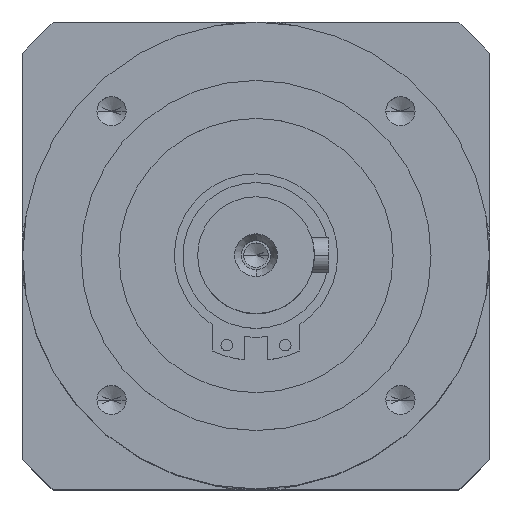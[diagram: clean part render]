
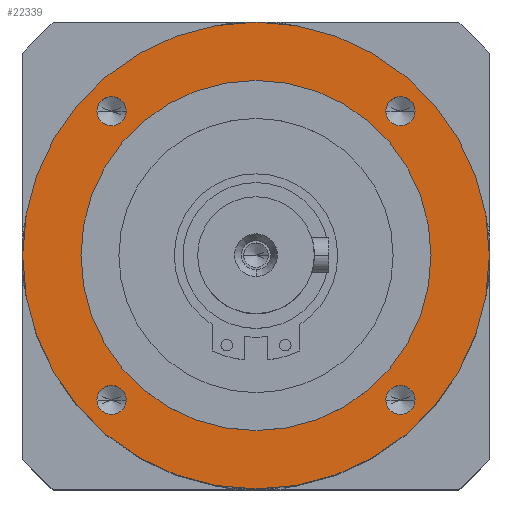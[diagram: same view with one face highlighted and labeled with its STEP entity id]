
A CAD part, top view. The second image highlights one B-rep face of the part: STEP entity #22339.
In plain terms, the highlighted planar face has unit normal (0, 0, 1).
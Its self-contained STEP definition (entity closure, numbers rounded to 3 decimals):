
#251 = AXIS2_PLACEMENT_3D ( 'NONE', #9035, #21203, #10785 ) ;
#335 = CIRCLE ( 'NONE', #21070, 30. ) ;
#372 = ORIENTED_EDGE ( 'NONE', *, *, #18936, .F. ) ;
#1037 = ORIENTED_EDGE ( 'NONE', *, *, #19254, .F. ) ;
#1311 = EDGE_LOOP ( 'NONE', ( #1037, #10971 ) ) ;
#1449 = DIRECTION ( 'NONE',  ( -1., 0., 0. ) ) ;
#1699 = DIRECTION ( 'NONE',  ( 1., 0., 0. ) ) ;
#1741 = VERTEX_POINT ( 'NONE', #2114 ) ;
#1993 = CARTESIAN_POINT ( 'NONE',  ( 40., 0., 15. ) ) ;
#2114 = CARTESIAN_POINT ( 'NONE',  ( -27.249, -24.749, 15. ) ) ;
#2798 = CIRCLE ( 'NONE', #18652, 2.5 ) ;
#3407 = CARTESIAN_POINT ( 'NONE',  ( -27.249, 24.749, 15. ) ) ;
#3849 = AXIS2_PLACEMENT_3D ( 'NONE', #8187, #20389, #9971 ) ;
#4030 = EDGE_CURVE ( 'NONE', #1741, #22251, #11233, .T. ) ;
#4099 = AXIS2_PLACEMENT_3D ( 'NONE', #22558, #12087, #1699 ) ;
#4101 = CARTESIAN_POINT ( 'NONE',  ( 0., 0., 15. ) ) ;
#4122 = FACE_BOUND ( 'NONE', #16852, .T. ) ;
#4351 = DIRECTION ( 'NONE',  ( 0., 0., 1. ) ) ;
#4432 = VERTEX_POINT ( 'NONE', #10162 ) ;
#4660 = CARTESIAN_POINT ( 'NONE',  ( 27.249, -24.749, 15. ) ) ;
#4846 = VERTEX_POINT ( 'NONE', #20174 ) ;
#5175 = EDGE_CURVE ( 'NONE', #4846, #22589, #6559, .T. ) ;
#5521 = CIRCLE ( 'NONE', #251, 2.5 ) ;
#5610 = EDGE_CURVE ( 'NONE', #7559, #18747, #19090, .T. ) ;
#5714 = VERTEX_POINT ( 'NONE', #3407 ) ;
#5854 = DIRECTION ( 'NONE',  ( 1., 0., 0. ) ) ;
#6002 = DIRECTION ( 'NONE',  ( 0., 0., 1. ) ) ;
#6296 = EDGE_CURVE ( 'NONE', #22251, #1741, #16056, .T. ) ;
#6559 = CIRCLE ( 'NONE', #4099, 2.5 ) ;
#6866 = CARTESIAN_POINT ( 'NONE',  ( -24.749, -24.749, 15. ) ) ;
#6982 = DIRECTION ( 'NONE',  ( 0., 0., 1. ) ) ;
#7225 = VERTEX_POINT ( 'NONE', #20040 ) ;
#7559 = VERTEX_POINT ( 'NONE', #1993 ) ;
#7841 = CARTESIAN_POINT ( 'NONE',  ( -40., 0., 15. ) ) ;
#8187 = CARTESIAN_POINT ( 'NONE',  ( 24.749, 24.749, 15. ) ) ;
#8277 = DIRECTION ( 'NONE',  ( 0., 0., -1. ) ) ;
#8394 = CARTESIAN_POINT ( 'NONE',  ( -24.749, 24.749, 15. ) ) ;
#8407 = ORIENTED_EDGE ( 'NONE', *, *, #8899, .F. ) ;
#8504 = DIRECTION ( 'NONE',  ( 0., 0., 1. ) ) ;
#8642 = DIRECTION ( 'NONE',  ( 1., 0., 0. ) ) ;
#8893 = CARTESIAN_POINT ( 'NONE',  ( -22.249, 24.749, 15. ) ) ;
#8899 = EDGE_CURVE ( 'NONE', #5714, #10410, #5521, .T. ) ;
#8927 = CARTESIAN_POINT ( 'NONE',  ( 0., 0., 15. ) ) ;
#9035 = CARTESIAN_POINT ( 'NONE',  ( -24.749, 24.749, 15. ) ) ;
#9173 = CIRCLE ( 'NONE', #15831, 2.5 ) ;
#9346 = ORIENTED_EDGE ( 'NONE', *, *, #11189, .F. ) ;
#9444 = ORIENTED_EDGE ( 'NONE', *, *, #19037, .F. ) ;
#9971 = DIRECTION ( 'NONE',  ( 1., 0., 0. ) ) ;
#10162 = CARTESIAN_POINT ( 'NONE',  ( 30., 0., 15. ) ) ;
#10178 = DIRECTION ( 'NONE',  ( 1., 0., 0. ) ) ;
#10410 = VERTEX_POINT ( 'NONE', #8893 ) ;
#10675 = DIRECTION ( 'NONE',  ( -1., 0., 0. ) ) ;
#10785 = DIRECTION ( 'NONE',  ( 1., 0., 0. ) ) ;
#10961 = CIRCLE ( 'NONE', #19186, 40. ) ;
#10971 = ORIENTED_EDGE ( 'NONE', *, *, #5175, .F. ) ;
#11189 = EDGE_CURVE ( 'NONE', #10410, #5714, #9173, .T. ) ;
#11233 = CIRCLE ( 'NONE', #18545, 2.5 ) ;
#11307 = AXIS2_PLACEMENT_3D ( 'NONE', #17424, #6982, #19215 ) ;
#11609 = PLANE ( 'NONE',  #16463 ) ;
#11814 = DIRECTION ( 'NONE',  ( 0., 0., -1. ) ) ;
#12087 = DIRECTION ( 'NONE',  ( 0., 0., 1. ) ) ;
#12573 = CARTESIAN_POINT ( 'NONE',  ( -30., 0., 15. ) ) ;
#12705 = EDGE_LOOP ( 'NONE', ( #19815, #18705 ) ) ;
#12826 = FACE_OUTER_BOUND ( 'NONE', #20260, .T. ) ;
#13129 = EDGE_CURVE ( 'NONE', #7225, #21628, #2798, .T. ) ;
#13258 = ORIENTED_EDGE ( 'NONE', *, *, #18010, .F. ) ;
#13272 = ORIENTED_EDGE ( 'NONE', *, *, #4030, .F. ) ;
#13378 = FACE_BOUND ( 'NONE', #12705, .T. ) ;
#13944 = CIRCLE ( 'NONE', #3849, 2.5 ) ;
#14515 = CARTESIAN_POINT ( 'NONE',  ( 27.249, 24.749, 15. ) ) ;
#14790 = CARTESIAN_POINT ( 'NONE',  ( 24.749, -24.749, 15. ) ) ;
#15351 = ORIENTED_EDGE ( 'NONE', *, *, #5610, .F. ) ;
#15414 = EDGE_LOOP ( 'NONE', ( #19700, #13272 ) ) ;
#15831 = AXIS2_PLACEMENT_3D ( 'NONE', #8394, #20588, #10178 ) ;
#15857 = CIRCLE ( 'NONE', #20465, 30. ) ;
#16056 = CIRCLE ( 'NONE', #18723, 2.5 ) ;
#16291 = DIRECTION ( 'NONE',  ( 0., 0., 1. ) ) ;
#16434 = CARTESIAN_POINT ( 'NONE',  ( -24.749, -24.749, 15. ) ) ;
#16463 = AXIS2_PLACEMENT_3D ( 'NONE', #18729, #8277, #20468 ) ;
#16494 = VERTEX_POINT ( 'NONE', #12573 ) ;
#16544 = DIRECTION ( 'NONE',  ( 1., 0., 0. ) ) ;
#16852 = EDGE_LOOP ( 'NONE', ( #9346, #8407 ) ) ;
#17227 = AXIS2_PLACEMENT_3D ( 'NONE', #22302, #11814, #1449 ) ;
#17424 = CARTESIAN_POINT ( 'NONE',  ( 24.749, -24.749, 15. ) ) ;
#17463 = FACE_BOUND ( 'NONE', #18993, .T. ) ;
#18010 = EDGE_CURVE ( 'NONE', #4432, #16494, #15857, .T. ) ;
#18016 = FACE_BOUND ( 'NONE', #1311, .T. ) ;
#18185 = DIRECTION ( 'NONE',  ( 1., 0., 0. ) ) ;
#18355 = CARTESIAN_POINT ( 'NONE',  ( -22.249, -24.749, 15. ) ) ;
#18545 = AXIS2_PLACEMENT_3D ( 'NONE', #6866, #19079, #8642 ) ;
#18652 = AXIS2_PLACEMENT_3D ( 'NONE', #14790, #4351, #16544 ) ;
#18705 = ORIENTED_EDGE ( 'NONE', *, *, #13129, .F. ) ;
#18723 = AXIS2_PLACEMENT_3D ( 'NONE', #16434, #6002, #18185 ) ;
#18729 = CARTESIAN_POINT ( 'NONE',  ( 0., 52.5, 15. ) ) ;
#18747 = VERTEX_POINT ( 'NONE', #7841 ) ;
#18760 = CIRCLE ( 'NONE', #11307, 2.5 ) ;
#18936 = EDGE_CURVE ( 'NONE', #18747, #7559, #10961, .T. ) ;
#18958 = CARTESIAN_POINT ( 'NONE',  ( 0., 0., 15. ) ) ;
#18993 = EDGE_LOOP ( 'NONE', ( #13258, #9444 ) ) ;
#19037 = EDGE_CURVE ( 'NONE', #16494, #4432, #335, .T. ) ;
#19079 = DIRECTION ( 'NONE',  ( 0., 0., 1. ) ) ;
#19090 = CIRCLE ( 'NONE', #17227, 40. ) ;
#19186 = AXIS2_PLACEMENT_3D ( 'NONE', #8927, #21095, #10675 ) ;
#19215 = DIRECTION ( 'NONE',  ( 1., 0., 0. ) ) ;
#19254 = EDGE_CURVE ( 'NONE', #22589, #4846, #13944, .T. ) ;
#19700 = ORIENTED_EDGE ( 'NONE', *, *, #6296, .F. ) ;
#19815 = ORIENTED_EDGE ( 'NONE', *, *, #20894, .F. ) ;
#20040 = CARTESIAN_POINT ( 'NONE',  ( 22.249, -24.749, 15. ) ) ;
#20174 = CARTESIAN_POINT ( 'NONE',  ( 22.249, 24.749, 15. ) ) ;
#20260 = EDGE_LOOP ( 'NONE', ( #15351, #372 ) ) ;
#20389 = DIRECTION ( 'NONE',  ( 0., 0., 1. ) ) ;
#20465 = AXIS2_PLACEMENT_3D ( 'NONE', #18958, #8504, #20705 ) ;
#20468 = DIRECTION ( 'NONE',  ( -1., 0., 0. ) ) ;
#20588 = DIRECTION ( 'NONE',  ( 0., 0., 1. ) ) ;
#20705 = DIRECTION ( 'NONE',  ( 1., 0., 0. ) ) ;
#20894 = EDGE_CURVE ( 'NONE', #21628, #7225, #18760, .T. ) ;
#21070 = AXIS2_PLACEMENT_3D ( 'NONE', #4101, #16291, #5854 ) ;
#21095 = DIRECTION ( 'NONE',  ( 0., 0., -1. ) ) ;
#21203 = DIRECTION ( 'NONE',  ( 0., 0., 1. ) ) ;
#21628 = VERTEX_POINT ( 'NONE', #4660 ) ;
#22106 = FACE_BOUND ( 'NONE', #15414, .T. ) ;
#22251 = VERTEX_POINT ( 'NONE', #18355 ) ;
#22302 = CARTESIAN_POINT ( 'NONE',  ( 0., 0., 15. ) ) ;
#22339 = ADVANCED_FACE ( 'NONE', ( #4122, #18016, #13378, #22106, #17463, #12826 ), #11609, .F. ) ;
#22558 = CARTESIAN_POINT ( 'NONE',  ( 24.749, 24.749, 15. ) ) ;
#22589 = VERTEX_POINT ( 'NONE', #14515 ) ;
